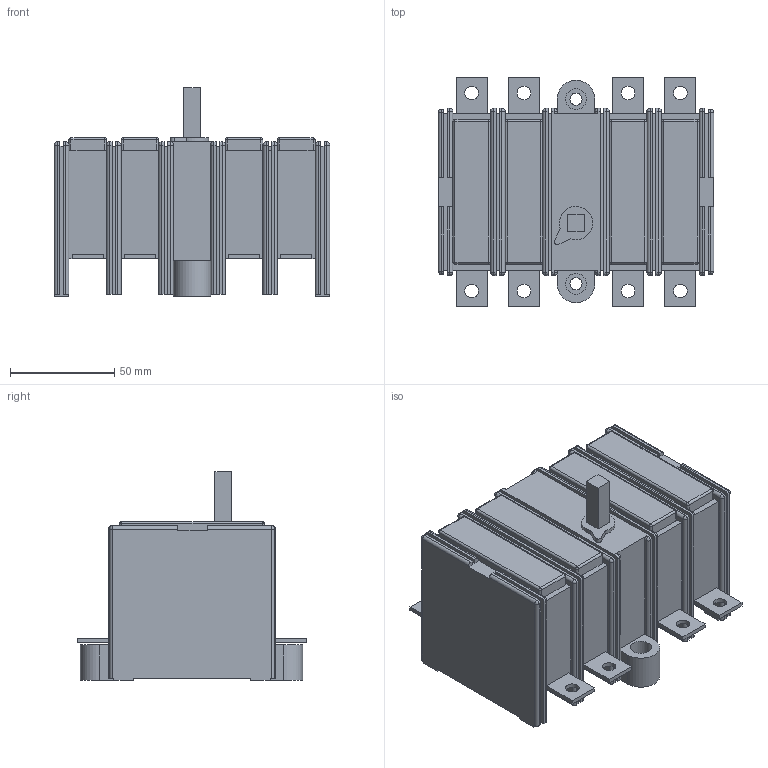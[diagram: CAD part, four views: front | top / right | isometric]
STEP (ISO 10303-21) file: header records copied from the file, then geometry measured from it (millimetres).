
FILE_DESCRIPTION(/* description */ (''),/* implementation_level */ '2;1');
FILE_NAME(/* name */ 'RA100 P3 N, RA100 P4.stp',/* time_stamp */ '2021-08-17T12:24:30+02:00',/* author */ (''),/* organization */ (''),/* preprocessor_version */ 'ST-DEVELOPER v18.1',/* originating_system */ 'SIEMENS PLM Software NX 1965',/* authorisation */ '');
FILE_SCHEMA (('AUTOMOTIVE_DESIGN { 1 0 10303 214 3 1 1 1 }'));
Length unit declared in the file: millimetre
Products named in the file (1): RA100 P3 N,  RA100 P4_stp
Bounding box: 132 x 110 x 100 mm (x, y, z)
Volume: 659820.6 mm3; surface area: 77702.8 mm2
Topology: 1 solids, 1 shells, 367 faces, 985 edges, 584 vertices
Faces by surface type: plane 213, cylinder 114, sphere 39, bspline 1
Full cylindrical faces by diameter (mm): 5.8 x2, 6.5 x8, 10 x2
Entity records: 10978 total; most frequent: CARTESIAN_POINT 1923, DIRECTION 1888, ORIENTED_EDGE 1862, EDGE_CURVE 931, LINE 702, VECTOR 702, AXIS2_PLACEMENT_3D 593, VERTEX_POINT 582
